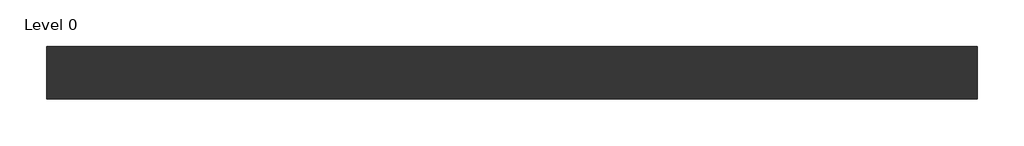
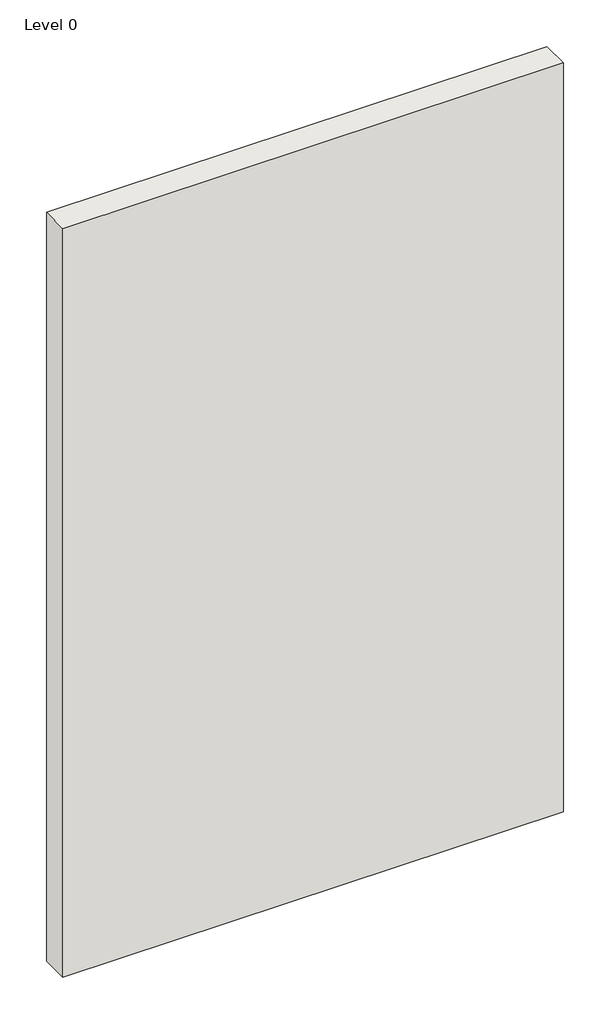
# One storey: 1 wall.
"""IFC4 building model written with IfcOpenShell, lengths in millimetres."""

import ifcopenshell
import ifcopenshell.guid

model = None  # the IFC model being written
_history = None  # IfcOwnerHistory: only IFC2X3 demands one
_inside = {}  # id of a spatial element -> (the spatial element, [elements in it])
_under = {}  # id of a project, library or spatial element -> (it, [spatial elements below it])
_declared = {}  # id of a project -> (the project, [libraries it declares])
_typed = {}  # id of a type object -> (the type object, [elements of that type])
_made_of = {}  # id of a material, layer set ... -> (it, [elements and type objects made of it])


def new_model(schema):
    """Start an empty IFC model of exactly this schema.

    Asked for "IFC4X3", IfcOpenShell would pick the latest addendum, in which some entities
    have other attributes; the version numbers below select the first issue.
    IFC2X3 requires an IfcOwnerHistory on every rooted entity: one is made here for all.
    """
    global model, _history
    if schema == "IFC4X3":
        model = ifcopenshell.file(schema_version=(4, 3, 0, 0))
    else:
        model = ifcopenshell.file(schema=schema)
    _inside.clear()
    _under.clear()
    _declared.clear()
    _typed.clear()
    _made_of.clear()
    _history = None
    if model.schema == "IFC2X3":
        org = make("IfcOrganization", Name="unknown")
        user = make(
            "IfcPersonAndOrganization",
            ThePerson=make("IfcPerson", FamilyName="unknown"),
            TheOrganization=org,
        )
        app = make(
            "IfcApplication",
            ApplicationDeveloper=org,
            Version="unknown",
            ApplicationFullName="unknown",
            ApplicationIdentifier="unknown",
        )
        _history = make(
            "IfcOwnerHistory",
            OwningUser=user,
            OwningApplication=app,
            ChangeAction="ADDED",
            CreationDate=0,
        )
    return model


def make(cls, **values):
    """One entity of the class cls with the attributes given. An attribute that is None is left unset."""
    return model.create_entity(
        cls, **{name: value for name, value in values.items() if value is not None}
    )


def rooted(cls, **values):
    """An entity with a GlobalId (a new one), such as an element, a storey or a relation."""
    return make(cls, GlobalId=ifcopenshell.guid.new(), OwnerHistory=_history, **values)


def si_unit(unit_type, name, prefix=None):
    """IfcSIUnit, for example si_unit("LENGTHUNIT", "METRE", prefix="MILLI")."""
    return make("IfcSIUnit", UnitType=unit_type, Prefix=prefix, Name=name)


def assignment(units):
    """IfcUnitAssignment: the units of a project."""
    return None if units is None else make("IfcUnitAssignment", Units=units)


def point(xyz):
    """IfcCartesianPoint."""
    return None if xyz is None else make("IfcCartesianPoint", Coordinates=xyz)


def direction(xyz):
    """IfcDirection."""
    return None if xyz is None else make("IfcDirection", DirectionRatios=xyz)


def frame(location, z_axis=None, x_axis=None):
    """IfcAxis2Placement3D, a coordinate frame: its origin and axes. An axis left out is left unset."""
    return make(
        "IfcAxis2Placement3D",
        Location=point(location),
        Axis=direction(z_axis),
        RefDirection=direction(x_axis),
    )


def origin():
    """The frame at (0, 0, 0) with its axes left unset."""
    return frame((0.0, 0.0, 0.0))


def origin_with_axes():
    """The frame at (0, 0, 0) with the z axis (0, 0, 1) and the x axis (1, 0, 0) written out."""
    return frame((0.0, 0.0, 0.0), z_axis=(0.0, 0.0, 1.0), x_axis=(1.0, 0.0, 0.0))


def place(relative_to, where):
    """IfcLocalPlacement: puts the frame where relative to a parent placement (None: the world)."""
    return make(
        "IfcLocalPlacement", PlacementRelTo=relative_to, RelativePlacement=where
    )


def context(
    kind, dimensions, precision=None, world=None, true_north=None, identifier=None
):
    """IfcGeometricRepresentationContext, for example the 3D "Model" context."""
    return make(
        "IfcGeometricRepresentationContext",
        ContextIdentifier=identifier,
        ContextType=kind,
        CoordinateSpaceDimension=dimensions,
        Precision=precision,
        WorldCoordinateSystem=world,
        TrueNorth=true_north,
    )


def project(units=None, contexts=None):
    """IfcProject with its units and contexts."""
    return rooted(
        "IfcProject",
        Name="project",
        RepresentationContexts=contexts,
        UnitsInContext=assignment(units),
    )


def spatial(cls, under=None, at=None, **own):
    """A site, building, storey or space (cls), placed at a placement, below another one or the project."""
    s = rooted(cls, ObjectPlacement=at, **own)
    if under is not None:
        _under.setdefault(under.id(), (under, []))[1].append(s)
    return s


def polyline(points):
    """IfcPolyline through the points."""
    return make("IfcPolyline", Points=[point(p) for p in points])


def outline(outer, holes=None, kind="AREA"):
    """IfcArbitraryClosedProfileDef: a profile drawn as a closed curve; with holes, ...WithVoids."""
    if holes is None:
        return make("IfcArbitraryClosedProfileDef", ProfileType=kind, OuterCurve=outer)
    return make(
        "IfcArbitraryProfileDefWithVoids",
        ProfileType=kind,
        OuterCurve=outer,
        InnerCurves=holes,
    )


def extrude(swept, where, along, depth):
    """IfcExtrudedAreaSolid: the profile swept, set in the frame where, extruded along a direction by depth."""
    return make(
        "IfcExtrudedAreaSolid",
        SweptArea=swept,
        Position=where,
        ExtrudedDirection=direction(along),
        Depth=depth,
    )


def shape(context_of_items, identifier, shape_type, items):
    """IfcShapeRepresentation: the items that make up one representation, for example the "Body"."""
    return make(
        "IfcShapeRepresentation",
        ContextOfItems=context_of_items,
        RepresentationIdentifier=identifier,
        RepresentationType=shape_type,
        Items=items,
    )


def made_of(thing, what):
    """Note that an element or type object is made of a material, layer set ...; save() writes the relation."""
    if what is not None:
        _made_of.setdefault(what.id(), (what, []))[1].append(thing)
    return thing


def element(
    cls,
    number,
    at=None,
    inside=None,
    cuts=None,
    type_object=None,
    material=None,
    context=None,
    identifier="Body",
    shape_type=None,
    held_by="IfcProductDefinitionShape",
    body=None,
    shapes=None,
    **own,
):
    """One element of the class cls, such as IfcWall. Its Tag is "e" and its number.

    at: its placement. inside: the storey or other place that contains it. cuts: it is an
    opening in that element (IfcRelVoidsElement). A single representation is given by context,
    identifier, shape_type and body (its items); several are given by shapes. held_by: the class
    of the entity that holds the representations. save() writes the other relations.
    """
    e = rooted(cls, Tag="e%d" % number, ObjectPlacement=at, **own)
    if body is not None:
        shapes = [shape(context, identifier, shape_type, body)]
    if shapes is not None:
        e.Representation = make(held_by, Representations=shapes)
    if inside is not None:
        _inside.setdefault(inside.id(), (inside, []))[1].append(e)
    if cuts is not None:
        rooted(
            "IfcRelVoidsElement", RelatingBuildingElement=cuts, RelatedOpeningElement=e
        )
    if type_object is not None:
        _typed.setdefault(type_object.id(), (type_object, []))[1].append(e)
    return made_of(e, material)


def aggregate(whole, parts):
    """IfcRelAggregates: a whole, such as a stair, and the parts it consists of."""
    return rooted("IfcRelAggregates", RelatingObject=whole, RelatedObjects=parts)


def save(model, path):
    """Write the relations noted so far, then the file.

    IfcRelAggregates (storeys below a building ...), IfcRelContainedInSpatialStructure (elements
    in a storey), IfcRelDefinesByType, IfcRelAssociatesMaterial and IfcRelDeclares: one each for
    every whole, place, type object, material and project.
    """
    for whole, parts in _under.values():
        aggregate(whole, parts)
    for where, things in _inside.values():
        rooted(
            "IfcRelContainedInSpatialStructure",
            RelatedElements=things,
            RelatingStructure=where,
        )
    for kind, things in _typed.values():
        rooted("IfcRelDefinesByType", RelatedObjects=things, RelatingType=kind)
    for what, things in _made_of.values():
        rooted("IfcRelAssociatesMaterial", RelatedObjects=things, RelatingMaterial=what)
    for by, libraries in _declared.values():
        rooted("IfcRelDeclares", RelatingContext=by, RelatedDefinitions=libraries)
    model.write(path)


model = new_model("IFC4")

# Units and contexts
model_context = context("Model", 3, world=origin())
ifc_project = project(units=[si_unit("LENGTHUNIT", "METRE", prefix="MILLI")], contexts=[model_context])

# Site, building, storey
site = spatial("IfcSite", under=ifc_project)
building = spatial("IfcBuilding", under=site)
storey = spatial("IfcBuildingStorey", under=building, Name="Level 0", Elevation=0.0)

# Wall
placement = place(None, origin())
element("IfcWall", 1, ObjectType="A233026 - GypWall Staggered", at=placement, inside=storey, context=model_context, shape_type="SweptSolid", body=[
    extrude(outline(polyline([(1155.997948, 467.2669953), (-1944.002052, 467.2669953), (-1944.002052, 643.2669953), (1155.997948, 643.2669953), (1155.997948, 467.2669953)])), origin_with_axes(), (0.0, 0.0, 1.0), 4900.0),
])

save(model, "model.ifc")
